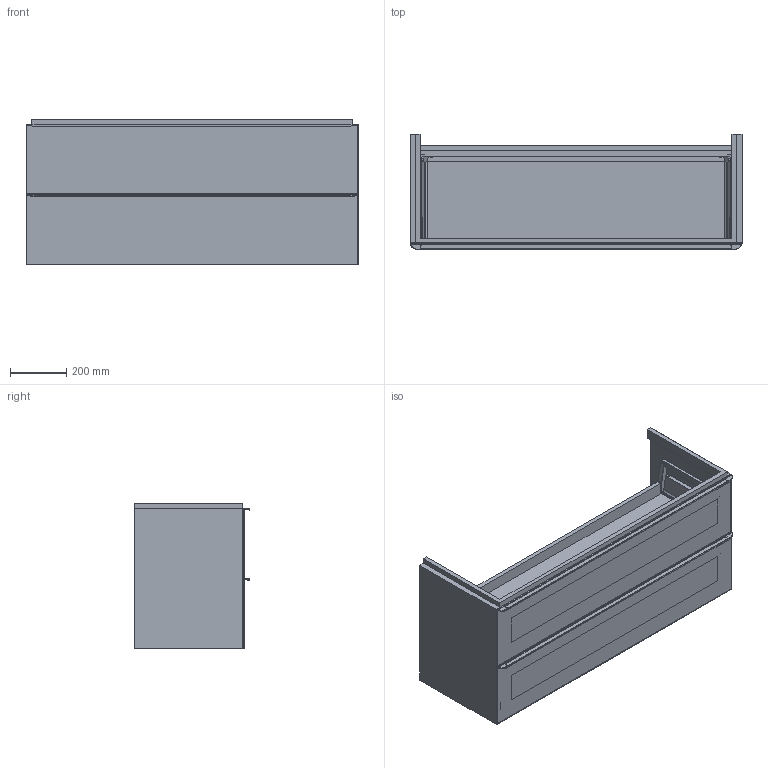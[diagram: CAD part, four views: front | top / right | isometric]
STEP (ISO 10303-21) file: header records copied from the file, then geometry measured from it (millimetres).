
FILE_DESCRIPTION(/* description */ (''),/* implementation_level */ '2;1');
FILE_NAME(/* name */ '3D994B~1',/* time_stamp */ '2018-05-07T18:09:21+02:00',/* author */ (''),/* organization */ (''),/* preprocessor_version */ 'ST-DEVELOPER v15',/* originating_system */ '',/* authorisation */ '');
FILE_SCHEMA (('AUTOMOTIVE_DESIGN'));
Length unit declared in the file: millimetre
Products named in the file (30): Document; Disegno1_40; Disegno1_39; Disegno1_38; Disegno1_37; Disegno1_34; Disegno1_33; Disegno1_32; Disegno1_31; Disegno1_30; Disegno1_29; Disegno1_28; Disegno1_27; Disegno1_26; Disegno1_23; Disegno1_22; Disegno1_21; Disegno1_20; Disegno1_19; Disegno1_12; Disegno1_11; Disegno1_10; Disegno1_9; Disegno1_8; Disegno1_7; Disegno1_6; Disegno1_5; Disegno1_4; Disegno1_3; Disegno1_2
Assembly tree (29 placements, depth 2):
  Document
    Disegno1_40
    Disegno1_39
    Disegno1_38
    Disegno1_37
    Disegno1_34
    Disegno1_33
    Disegno1_32
    Disegno1_31
    Disegno1_30
    Disegno1_29
    Disegno1_28
    Disegno1_27
    Disegno1_26
    Disegno1_23
    Disegno1_22
    Disegno1_21
    Disegno1_20
    Disegno1_19
    Disegno1_12
    Disegno1_11
    Disegno1_10
    Disegno1_9
    Disegno1_8
    Disegno1_7
    Disegno1_6
    Disegno1_5
    Disegno1_4
    Disegno1_3
    Disegno1_2
Bounding box: 1181 x 410 x 519 mm (x, y, z)
Volume: 35574453.1 mm3; surface area: 7387939.1 mm2
Topology: 29 solids, 29 shells, 1274 faces, 3564 edges, 2406 vertices
Faces by surface type: plane 886, bspline 388
Entity records: 42632 total; most frequent: CARTESIAN_POINT 18754, ORIENTED_EDGE 7128, EDGE_CURVE 3564, B_SPLINE_CURVE_WITH_KNOTS 2766, VERTEX_POINT 2406, EDGE_LOOP 1448, ADVANCED_FACE 1274, FACE_OUTER_BOUND 1274
